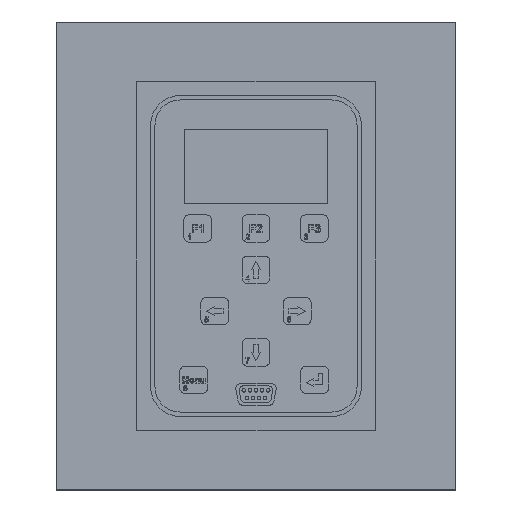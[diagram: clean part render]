
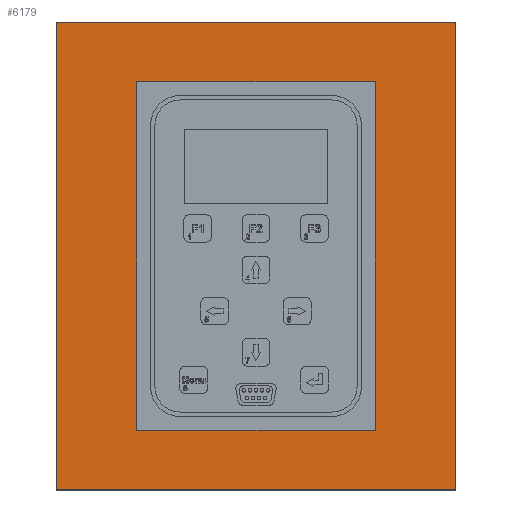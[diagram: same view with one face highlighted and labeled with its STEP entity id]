
A CAD part, top view. The second image highlights one B-rep face of the part: STEP entity #6179.
In plain terms, the highlighted planar face has unit normal (0, 0, 1).
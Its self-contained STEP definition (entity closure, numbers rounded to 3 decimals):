
#5401=CARTESIAN_POINT('',(37.098,27.569,4.369));
#5402=VERTEX_POINT('',#5401);
#5411=CARTESIAN_POINT('',(147.052,27.569,4.369));
#5412=VERTEX_POINT('',#5411);
#5413=CARTESIAN_POINT('',(147.052,27.569,4.369));
#5414=DIRECTION('',(-1.0,0.0,0.0));
#5415=VECTOR('',#5414,109.954);
#5416=LINE('',#5413,#5415);
#5417=EDGE_CURVE('',#5412,#5402,#5416,.T.);
#5441=CARTESIAN_POINT('',(37.098,188.331,4.369));
#5442=VERTEX_POINT('',#5441);
#5451=CARTESIAN_POINT('',(37.098,27.569,4.369));
#5452=DIRECTION('',(0.0,1.0,0.0));
#5453=VECTOR('',#5452,160.762);
#5454=LINE('',#5451,#5453);
#5455=EDGE_CURVE('',#5402,#5442,#5454,.T.);
#5472=CARTESIAN_POINT('',(147.052,188.331,4.369));
#5473=VERTEX_POINT('',#5472);
#5482=CARTESIAN_POINT('',(37.098,188.331,4.369));
#5483=DIRECTION('',(1.0,0.0,0.0));
#5484=VECTOR('',#5483,109.954);
#5485=LINE('',#5482,#5484);
#5486=EDGE_CURVE('',#5442,#5473,#5485,.T.);
#5504=CARTESIAN_POINT('',(147.052,188.331,4.369));
#5505=DIRECTION('',(0.0,-1.0,0.0));
#5506=VECTOR('',#5505,160.762);
#5507=LINE('',#5504,#5506);
#5508=EDGE_CURVE('',#5473,#5412,#5507,.T.);
#5562=CARTESIAN_POINT('',(0.,0.,4.369));
#5563=VERTEX_POINT('',#5562);
#5580=CARTESIAN_POINT('',(184.15,0.,4.369));
#5581=VERTEX_POINT('',#5580);
#5588=CARTESIAN_POINT('',(0.,0.,4.369));
#5589=DIRECTION('',(1.0,0.0,0.0));
#5590=VECTOR('',#5589,184.15);
#5591=LINE('',#5588,#5590);
#5592=EDGE_CURVE('',#5563,#5581,#5591,.T.);
#5602=CARTESIAN_POINT('',(0.,215.9,4.369));
#5603=VERTEX_POINT('',#5602);
#5619=CARTESIAN_POINT('',(0.,215.9,4.369));
#5620=DIRECTION('',(0.0,-1.0,0.0));
#5621=VECTOR('',#5620,215.9);
#5622=LINE('',#5619,#5621);
#5623=EDGE_CURVE('',#5603,#5563,#5622,.T.);
#5633=CARTESIAN_POINT('',(184.15,215.9,4.369));
#5634=VERTEX_POINT('',#5633);
#5650=CARTESIAN_POINT('',(184.15,215.9,4.369));
#5651=DIRECTION('',(-1.0,0.0,0.0));
#5652=VECTOR('',#5651,184.15);
#5653=LINE('',#5650,#5652);
#5654=EDGE_CURVE('',#5634,#5603,#5653,.T.);
#5672=CARTESIAN_POINT('',(184.15,0.,4.369));
#5673=DIRECTION('',(0.0,1.0,0.0));
#5674=VECTOR('',#5673,215.9);
#5675=LINE('',#5672,#5674);
#5676=EDGE_CURVE('',#5581,#5634,#5675,.T.);
#6162=CARTESIAN_POINT('',(92.075,0.,4.369));
#6163=DIRECTION('',(0.0,0.0,1.0));
#6164=DIRECTION('',(1.0,0.0,0.0));
#6165=AXIS2_PLACEMENT_3D('',#6162,#6163,#6164);
#6166=PLANE('',#6165);
#6167=ORIENTED_EDGE('',*,*,#5676,.T.);
#6168=ORIENTED_EDGE('',*,*,#5654,.T.);
#6169=ORIENTED_EDGE('',*,*,#5623,.T.);
#6170=ORIENTED_EDGE('',*,*,#5592,.T.);
#6171=EDGE_LOOP('',(#6167,#6168,#6169,#6170));
#6172=FACE_OUTER_BOUND('',#6171,.T.);
#6173=ORIENTED_EDGE('',*,*,#5417,.T.);
#6174=ORIENTED_EDGE('',*,*,#5455,.T.);
#6175=ORIENTED_EDGE('',*,*,#5486,.T.);
#6176=ORIENTED_EDGE('',*,*,#5508,.T.);
#6177=EDGE_LOOP('',(#6173,#6174,#6175,#6176));
#6178=FACE_BOUND('',#6177,.T.);
#6179=ADVANCED_FACE('',(#6172,#6178),#6166,.T.);
